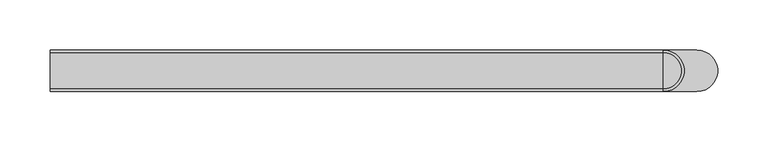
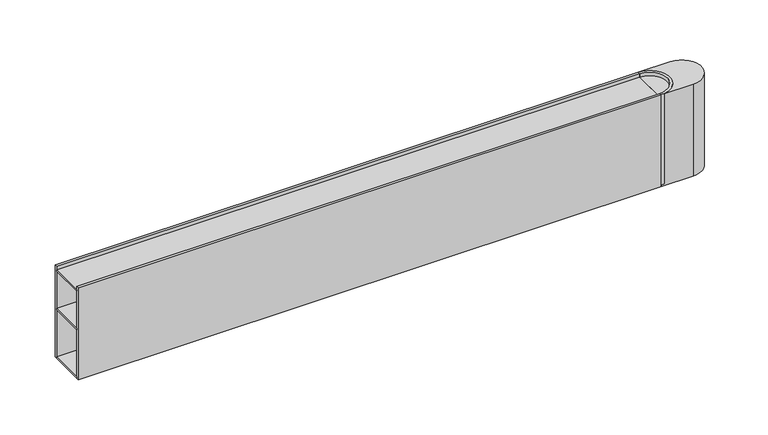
"""IFC4 building model written with IfcOpenShell, lengths in millimetres: light fixture geometry, Lighting-Recessed-Betacalco-Block-Straight : BLKR-DT1-PW01-TR01-SL04-EP01-LP020-CR80-CTA40."""

from ifc_helpers import new_model, si_unit, point, frame, frame_2d, origin, place, context, project, spatial, polyline, circle_curve, trimmed, segment, composite_curve, outline, extrude, source, transform, mapped, element, save
from ifc_brep_helpers import plane_surface, cylinder_surface, revolved_surface, advanced_brep


def light_fixture_613aea90(model_context):
    return source(origin(), model_context, "Body", "SolidModel", [
        extrude(outline(composite_curve([segment(polyline([(304.8, -20.6375), (304.8, -18.0975)]), True, "CONTINUOUS"), segment(trimmed(circle_curve(frame_2d((304.8, 0.0)), 18.0975), [point((304.8, -18.0975))], [point((304.8, 18.0975))], True, "CARTESIAN"), True, "CONTINUOUS"), segment(polyline([(304.8, 18.0975), (304.8, 20.6375)]), True, "CONTINUOUS"), segment(trimmed(circle_curve(frame_2d((304.8, 0.0)), 20.6375), [point((304.8, 20.6375))], [point((304.8, -20.6375))], False, "CARTESIAN"), True, "CONTINUOUS")], self_intersect=False)), frame((0.0, 0.0, -100.0125), z_axis=(0.0, 0.0, 1.0), x_axis=(1.0, 0.0, 0.0)), (0.0, 0.0, 1.0), 100.0125),
        extrude(outline(composite_curve([segment(polyline([(304.8, -18.0975), (304.8, 18.0975)]), True, "CONTINUOUS"), segment(trimmed(circle_curve(frame_2d((304.8, 0.0)), 18.0975), [point((304.8, 18.0975))], [point((304.8, -18.0975))], False, "CARTESIAN"), True, "CONTINUOUS")], self_intersect=False)), frame((0.0, 0.0, -5.2904412), z_axis=(0.0, 0.0, 1.0), x_axis=(1.0, 0.0, 0.0)), (0.0, 0.0, 1.0), 1.5875),
        advanced_brep(
        [(304.8, 20.6375, -100.0125), (304.8, -20.6375, -100.0125), (304.8, -20.6375, -101.6), (304.8, 20.6375, -101.6), (338.1375, 20.6375, -101.6), (338.1375, -20.6375, -101.6), (304.8, 20.6375, 0.0), (304.8, -20.6375, 0.0), (338.1375, -20.6375, 0.0), (338.1375, 20.6375, 0.0)],
        [
            (0, 1),
            (1, 0, circle_curve(frame((304.8, 0.0, -100.0125), z_axis=(0.0, 0.0, 1.0), x_axis=(1.0, 0.0, 0.0)), 20.6375)),
            (2, 3),
            (3, 4),
            (4, 5, circle_curve(frame((338.1375, 0.0, -101.6), z_axis=(0.0, 0.0, -1.0), x_axis=(1.0, 0.0, 0.0)), 20.6375)),
            (5, 2),
            (0, 3),
            (2, 1),
            (6, 7, circle_curve(frame((304.8, 0.0, 0.0), z_axis=(0.0, 0.0, -1.0), x_axis=(1.0, 0.0, 0.0)), 20.6375)),
            (7, 8),
            (8, 9, circle_curve(frame((338.1375, 0.0, 0.0), z_axis=(0.0, 0.0, 1.0), x_axis=(1.0, 0.0, 0.0)), 20.6375)),
            (9, 6),
            (6, 0),
            (1, 7),
            (5, 8),
            (4, 9),
        ],
        [
            plane_surface(frame((325.4375, 0.0, -100.0125), z_axis=(0.0, 0.0, 1.0), x_axis=(0.0, 1.0, 0.0))),
            plane_surface(frame((325.4375, 0.0, -101.6), z_axis=(0.0, 0.0, -1.0), x_axis=(0.0, -1.0, 0.0))),
            plane_surface(frame((304.8, 20.6375, -100.0125), z_axis=(-1.0, 0.0, 0.0), x_axis=(0.0, 0.0, -1.0))),
            plane_surface(frame((325.4375, 0.0, 0.0), z_axis=(0.0, 0.0, 1.0), x_axis=(0.0, -1.0, 0.0))),
            revolved_surface(polyline([(325.4375, 0.0, -100.0125), (325.4375, 0.0, 0.0)]), (304.8, 0.0, -101.6), (0.0, 0.0, -1.0)),
            plane_surface(frame((304.8, -20.6375, 0.0), z_axis=(0.0, -1.0, 0.0), x_axis=(0.0, 0.0, -1.0))),
            cylinder_surface(frame((338.1375, 0.0, -101.6), z_axis=(0.0, 0.0, 1.0), x_axis=(1.0, 0.0, 0.0)), 20.6375),
            plane_surface(frame((338.1375, 20.6375, 0.0), z_axis=(0.0, 1.0, 0.0), x_axis=(0.0, 0.0, -1.0))),
        ],
        [
            (0, [[1, 2]]),
            (1, [[3, 4, 5, 6]]),
            (2, [[-1, 7, -3, 8]]),
            (3, [[9, 10, 11, 12]]),
            (4, [[-9, 13, -2, 14]]),
            (5, [[-10, -14, -8, -6, 15]]),
            (6, [[-11, -15, -5, 16]]),
            (7, [[-12, -16, -4, -7, -13]]),
        ],
    ),
        extrude(outline(polyline([(304.8, 18.0975), (304.8, -18.0975), (-304.8, -18.0975), (-304.8, 18.0975), (304.8, 18.0975)])), frame((0.0, 0.0, -5.2904412), z_axis=(0.0, 0.0, 1.0), x_axis=(1.0, 0.0, 0.0)), (0.0, 0.0, 1.0), 1.5875),
        extrude(outline(polyline([(304.8, 18.0975), (304.8, -18.0975), (-304.8, -18.0975), (-304.8, 18.0975), (304.8, 18.0975)])), frame((0.0, 0.0, -47.912087), z_axis=(0.0, 0.0, 1.0), x_axis=(1.0, 0.0, 0.0)), (0.0, 0.0, 1.0), 1.5875),
        extrude(outline(polyline([(304.8, 18.0975), (304.8, -18.0975), (-304.8, -18.0975), (-304.8, 18.0975), (304.8, 18.0975)])), frame((0.0, 0.0, -101.6), z_axis=(0.0, 0.0, 1.0), x_axis=(1.0, 0.0, 0.0)), (0.0, 0.0, 1.0), 1.5875),
        extrude(outline(polyline([(304.8, 20.6375), (304.8, 18.0975), (-304.8, 18.0975), (-304.8, 20.6375), (304.8, 20.6375)])), frame((0.0, 0.0, -101.6), z_axis=(0.0, 0.0, 1.0), x_axis=(1.0, 0.0, 0.0)), (0.0, 0.0, 1.0), 101.6),
        extrude(outline(polyline([(304.8, -18.0975), (304.8, -20.6375), (-304.8, -20.6375), (-304.8, -18.0975), (304.8, -18.0975)])), frame((0.0, 0.0, -101.6), z_axis=(0.0, 0.0, 1.0), x_axis=(1.0, 0.0, 0.0)), (0.0, 0.0, 1.0), 101.6),
    ])


if __name__ == "__main__":
    model = new_model("IFC4")
    model_context = context("Model", 3, world=origin())
    ifc_project = project(units=[si_unit("LENGTHUNIT", "METRE", prefix="MILLI")], contexts=[model_context])
    site = spatial("IfcSite", under=ifc_project)
    building = spatial("IfcBuilding", under=site)
    placement = place(None, origin())
    light_fixture_shape = light_fixture_613aea90(model_context)
    element("IfcLightFixture", 1, ObjectType="Lighting-Recessed-Betacalco-Block-Straight : BLKR-DT1-PW01-TR01-SL04-EP01-LP020-CR80-CTA40", at=placement, inside=building, context=model_context, shape_type="MappedRepresentation", body=[
        mapped(light_fixture_shape, transform((0.0, 0.0, 0.0), x_axis=(1.0, 0.0, 0.0), y_axis=(0.0, 1.0, 0.0), z_axis=(0.0, 0.0, 1.0))),
    ])
    save(model, "model.ifc")
